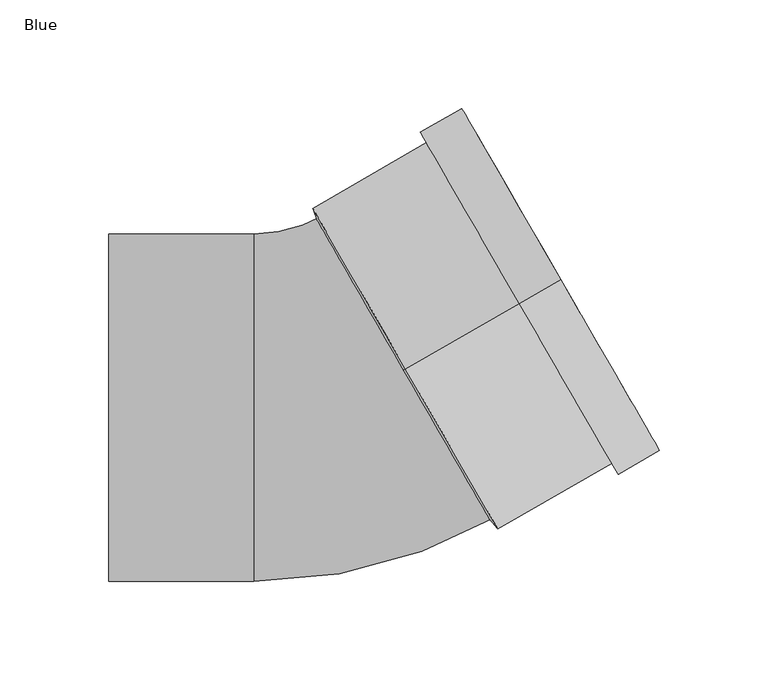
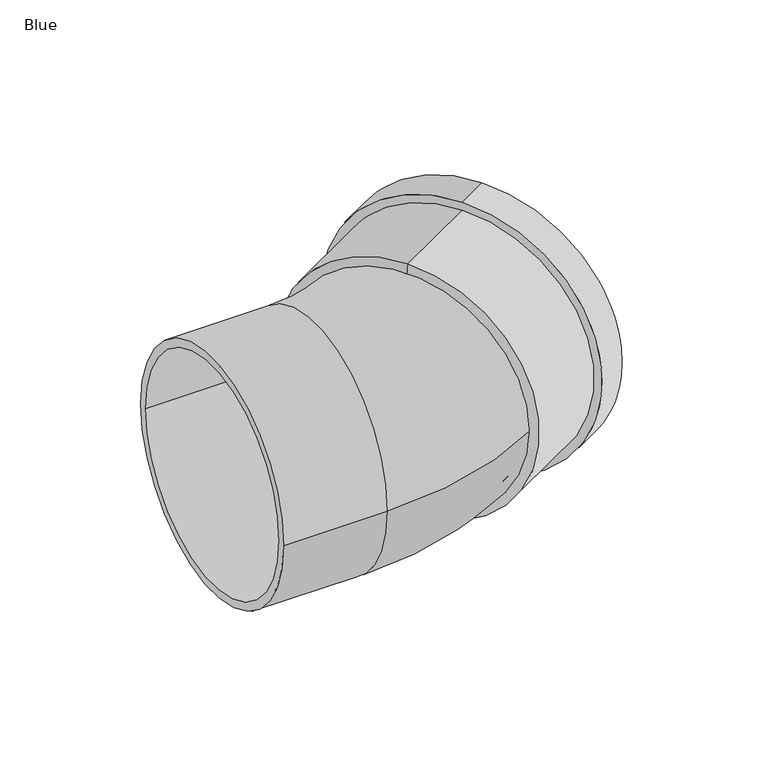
"""IFC4 building model written with IfcOpenShell, lengths in millimetres: pipe fitting geometry, AWADUKT PP SN10 Bend : Blue."""

from ifc_helpers import new_model, si_unit, point, frame, origin, place, context, project, spatial, polyline, circle_curve, ellipse_curve, trimmed, source, transform, mapped, element, save
from ifc_brep_helpers import plane_surface, cylinder_surface, revolved_surface, advanced_brep


def blue_66bd3a30(model_context):
    return source(origin(), model_context, "Body", "AdvancedBrep", [
        advanced_brep(
        [(83.1384388, 48.0, 85.5), (83.1384388, 48.0, -85.5), (30.7047146, 17.7273752, -85.5), (30.7047146, 17.7273752, 85.5), (102.1909976, 59.0, 91.0), (102.1909976, 59.0, -91.0), (83.1384388, 48.0, -91.0), (83.1384388, 48.0, 91.0), (97.4278579, 56.25, 80.0), (97.4278579, 56.25, -80.0), (102.1909976, 59.0, -80.0), (102.1909976, 59.0, 80.0), (87.9015785, 50.75, 85.5), (87.9015785, 50.75, -85.5), (97.4278579, 56.25, -85.5), (97.4278579, 56.25, 85.5), (34.7014633, 20.0348992, 80.0), (34.7014633, 20.0348992, -80.0), (87.9015785, 50.75, -80.0), (87.9015785, 50.75, 80.0), (33.8615933, 19.55, 74.5), (33.8615933, 19.55, -74.5), (29.0249745, 16.7575768, 74.5), (29.0249745, 16.7575768, -74.5)],
        [
            (0, 1, circle_curve(frame((83.1384388, 48.0, 0.0), z_axis=(-0.866025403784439, -0.49999999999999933, 0.0), x_axis=(0.0, 0.0, -1.0)), 85.5)),
            (1, 2),
            (2, 3, circle_curve(frame((30.7047146, 17.7273752, 0.0), z_axis=(0.866025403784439, 0.49999999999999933, 0.0), x_axis=(0.0, 0.0, -1.0)), 85.5)),
            (3, 0),
            (4, 5, circle_curve(frame((102.1909976, 59.0, 0.0), z_axis=(-0.866025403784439, -0.49999999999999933, 0.0), x_axis=(0.0, 0.0, -1.0)), 91.0)),
            (5, 6),
            (6, 7, circle_curve(frame((83.1384388, 48.0, 0.0), z_axis=(0.866025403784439, 0.49999999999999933, 0.0), x_axis=(0.0, 0.0, -1.0)), 91.0)),
            (7, 4),
            (8, 9, circle_curve(frame((97.4278579, 56.25, 0.0), z_axis=(-0.866025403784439, -0.49999999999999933, 0.0), x_axis=(0.0, 0.0, -1.0)), 80.0)),
            (9, 10),
            (10, 11, circle_curve(frame((102.1909976, 59.0, 0.0), z_axis=(0.866025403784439, 0.49999999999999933, 0.0), x_axis=(0.0, 0.0, -1.0)), 80.0)),
            (11, 8),
            (12, 13, circle_curve(frame((87.9015785, 50.75, 0.0), z_axis=(-0.866025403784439, -0.49999999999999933, 0.0), x_axis=(0.0, 0.0, -1.0)), 85.5)),
            (13, 14),
            (14, 15, circle_curve(frame((97.4278579, 56.25, 0.0), z_axis=(0.866025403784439, 0.49999999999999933, 0.0), x_axis=(0.0, 0.0, -1.0)), 85.5)),
            (15, 12),
            (16, 17, circle_curve(frame((34.7014633, 20.0348992, 0.0), z_axis=(-0.866025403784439, -0.49999999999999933, 0.0), x_axis=(0.0, 0.0, -1.0)), 80.0)),
            (17, 18),
            (18, 19, circle_curve(frame((87.9015785, 50.75, 0.0), z_axis=(0.866025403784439, 0.49999999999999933, 0.0), x_axis=(0.0, 0.0, -1.0)), 80.0)),
            (19, 16),
            (20, 21, circle_curve(frame((33.8615933, 19.55, 0.0), z_axis=(-0.866025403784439, -0.49999999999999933, 0.0), x_axis=(0.0, 0.0, -1.0)), 74.5)),
            (21, 17),
            (16, 20),
            (22, 23, circle_curve(frame((29.0249745, 16.7575768, 0.0), z_axis=(-0.866025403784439, -0.49999999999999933, 0.0), x_axis=(0.0, 0.0, -1.0)), 74.5)),
            (23, 21),
            (20, 22),
            (2, 23),
            (22, 3),
            (1, 0, circle_curve(frame((83.1384388, 48.0, 0.0), z_axis=(-0.866025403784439, -0.49999999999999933, 0.0), x_axis=(0.0, 0.0, 1.0)), 85.5)),
            (3, 2, circle_curve(frame((30.7047146, 17.7273752, 0.0), z_axis=(0.866025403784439, 0.49999999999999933, 0.0), x_axis=(0.0, 0.0, 1.0)), 85.5)),
            (6, 7, circle_curve(frame((83.1384388, 48.0, 0.0), z_axis=(-0.866025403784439, -0.49999999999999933, 0.0), x_axis=(0.0, 0.0, 1.0)), 91.0)),
            (5, 4, circle_curve(frame((102.1909976, 59.0, 0.0), z_axis=(-0.866025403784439, -0.49999999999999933, 0.0), x_axis=(0.0, 0.0, 1.0)), 91.0)),
            (10, 11, circle_curve(frame((102.1909976, 59.0, 0.0), z_axis=(-0.866025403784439, -0.49999999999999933, 0.0), x_axis=(0.0, 0.0, 1.0)), 80.0)),
            (9, 8, circle_curve(frame((97.4278579, 56.25, 0.0), z_axis=(-0.866025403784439, -0.49999999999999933, 0.0), x_axis=(0.0, 0.0, 1.0)), 80.0)),
            (14, 15, circle_curve(frame((97.4278579, 56.25, 0.0), z_axis=(-0.866025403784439, -0.49999999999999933, 0.0), x_axis=(0.0, 0.0, 1.0)), 85.5)),
            (13, 12, circle_curve(frame((87.9015785, 50.75, 0.0), z_axis=(-0.866025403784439, -0.49999999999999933, 0.0), x_axis=(0.0, 0.0, 1.0)), 85.5)),
            (18, 19, circle_curve(frame((87.9015785, 50.75, 0.0), z_axis=(-0.866025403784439, -0.49999999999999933, 0.0), x_axis=(0.0, 0.0, 1.0)), 80.0)),
            (17, 16, circle_curve(frame((34.7014633, 20.0348992, 0.0), z_axis=(-0.866025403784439, -0.49999999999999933, 0.0), x_axis=(0.0, 0.0, 1.0)), 80.0)),
            (21, 20, circle_curve(frame((33.8615933, 19.55, 0.0), z_axis=(-0.866025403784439, -0.49999999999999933, 0.0), x_axis=(0.0, 0.0, 1.0)), 74.5)),
            (23, 22, circle_curve(frame((29.0249745, 16.7575768, 0.0), z_axis=(-0.866025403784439, -0.49999999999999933, 0.0), x_axis=(0.0, 0.0, 1.0)), 74.5)),
        ],
        [
            cylinder_surface(frame((33.8615933, 19.55, 0.0), z_axis=(0.866025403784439, 0.49999999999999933, 0.0), x_axis=(0.0, 0.0, -1.0)), 85.5),
            cylinder_surface(frame((33.8615933, 19.55, 0.0), z_axis=(0.866025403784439, 0.49999999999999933, 0.0), x_axis=(0.0, 0.0, -1.0)), 91.0),
            revolved_surface(polyline([(102.1909976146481, 58.99999997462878, -80.0), (97.4278579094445, 56.249999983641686, -80.0)]), (33.8615933, 19.55, 0.0), (0.866025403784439, 0.49999999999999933, 0.0)),
            revolved_surface(polyline([(97.4278579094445, 56.249999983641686, -85.5), (87.90157849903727, 50.7500000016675, -85.5)]), (33.8615933, 19.55, 0.0), (0.866025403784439, 0.49999999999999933, 0.0)),
            revolved_surface(polyline([(87.90157849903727, 50.7500000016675, -80.0), (34.701463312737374, 20.034899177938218, -80.0)]), (33.8615933, 19.55, 0.0), (0.866025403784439, 0.49999999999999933, 0.0)),
            revolved_surface(polyline([(34.7014633, 20.0348992, -80.0), (33.8615933, 19.55, -74.5)]), (33.8615933, 19.55, 0.0), (0.866025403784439, 0.49999999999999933, 0.0)),
            revolved_surface(polyline([(33.8615933, 19.55, -74.5), (29.02497448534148, 16.7575768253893, -74.5)]), (33.8615933, 19.55, 0.0), (0.866025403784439, 0.49999999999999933, 0.0)),
            revolved_surface(polyline([(29.0249745, 16.7575768, -74.5), (30.7047146, 17.7273752, -85.5)]), (33.8615933, 19.55, 0.0), (0.866025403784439, 0.49999999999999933, 0.0)),
            cylinder_surface(frame((33.8615933, 19.55, 0.0), z_axis=(0.866025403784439, 0.49999999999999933, 0.0), x_axis=(0.0, 0.0, 1.0)), 85.5),
            plane_surface(frame((83.1384388, 48.0, 0.0), z_axis=(-0.866025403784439, -0.49999999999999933, 0.0), x_axis=(0.0, 0.0, 1.0))),
            cylinder_surface(frame((33.8615933, 19.55, 0.0), z_axis=(0.866025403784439, 0.49999999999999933, 0.0), x_axis=(0.0, 0.0, 1.0)), 91.0),
            plane_surface(frame((102.1909976, 59.0, 0.0), z_axis=(0.866025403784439, 0.49999999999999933, 0.0), x_axis=(0.0, 0.0, 1.0))),
            revolved_surface(polyline([(102.1909976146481, 58.99999997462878, 80.0), (97.4278579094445, 56.249999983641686, 80.0)]), (33.8615933, 19.55, 0.0), (0.866025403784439, 0.49999999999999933, 0.0)),
            plane_surface(frame((97.4278579, 56.25, 0.0), z_axis=(-0.866025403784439, -0.49999999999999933, 0.0), x_axis=(0.0, 0.0, 1.0))),
            revolved_surface(polyline([(97.4278579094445, 56.249999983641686, 85.5), (87.90157849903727, 50.7500000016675, 85.5)]), (33.8615933, 19.55, 0.0), (0.866025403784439, 0.49999999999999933, 0.0)),
            plane_surface(frame((87.9015785, 50.75, 0.0), z_axis=(0.866025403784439, 0.49999999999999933, 0.0), x_axis=(0.0, 0.0, 1.0))),
            revolved_surface(polyline([(87.90157849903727, 50.7500000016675, 80.0), (34.701463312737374, 20.034899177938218, 80.0)]), (33.8615933, 19.55, 0.0), (0.866025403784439, 0.49999999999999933, 0.0)),
            revolved_surface(polyline([(34.7014633, 20.0348992, 80.0), (33.8615933, 19.55, 74.5)]), (33.8615933, 19.55, 0.0), (0.866025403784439, 0.49999999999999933, 0.0)),
            revolved_surface(polyline([(33.8615933, 19.55, 74.5), (29.02497448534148, 16.7575768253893, 74.5)]), (33.8615933, 19.55, 0.0), (0.866025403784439, 0.49999999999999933, 0.0)),
            revolved_surface(polyline([(29.0249745, 16.7575768, 74.5), (30.7047146, 17.7273752, 85.5)]), (33.8615933, 19.55, 0.0), (0.866025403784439, 0.49999999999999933, 0.0)),
        ],
        [
            (0, [[1, 2, 3, 4]]),
            (1, [[5, 6, 7, 8]]),
            (2, [[9, 10, 11, 12]]),
            (3, [[13, 14, 15, 16]]),
            (4, [[17, 18, 19, 20]]),
            (5, [[21, 22, -17, 23]]),
            (6, [[24, 25, -21, 26]]),
            (7, [[-3, 27, -24, 28]]),
            (8, [[29, -4, 30, -2]]),
            (9, [[31, -7], [-29, -1]]),
            (10, [[32, -8, -31, -6]]),
            (11, [[-32, -5], [33, -11]]),
            (12, [[34, -12, -33, -10]]),
            (13, [[35, -15], [-34, -9]]),
            (14, [[36, -16, -35, -14]]),
            (15, [[-36, -13], [37, -19]]),
            (16, [[38, -20, -37, -18]]),
            (17, [[39, -23, -38, -22]]),
            (18, [[40, -26, -39, -25]]),
            (19, [[-30, -28, -40, -27]]),
        ],
    ),
        advanced_brep(
        [(-106.0, -80.0, 0.0), (-106.0, 80.0, 0.0), (-106.0, -74.5, 0.0), (-106.0, 74.5, 0.0), (73.8615933, -49.7320323, 0.0), (-6.1384067, 88.8320323, 0.0), (71.1115933, -44.9688926, 0.0), (-3.3884067, 84.0688926, 0.0), (-39.1, -74.5, 0.0), (-39.1, 74.5, 0.0), (-39.1, -80.0, 0.0), (-39.1, 80.0, 0.0)],
        [
            (0, 1, circle_curve(frame((-106.0, 0.0, 0.0), z_axis=(-1.0, 0.0, 0.0), x_axis=(0.0, 1.0, 0.0)), 80.0)),
            (1, 0, circle_curve(frame((-106.0, 0.0, 0.0), z_axis=(-1.0, 0.0, 0.0), x_axis=(0.0, 1.0, 0.0)), 80.0)),
            (2, 3, circle_curve(frame((-106.0, 0.0, 0.0), z_axis=(1.0, 0.0, 0.0), x_axis=(0.0, 1.0, 0.0)), 74.5)),
            (3, 2, circle_curve(frame((-106.0, 0.0, 0.0), z_axis=(1.0, 0.0, 0.0), x_axis=(0.0, 1.0, 0.0)), 74.5)),
            (4, 5, circle_curve(frame((33.8615933, 19.55, 0.0), z_axis=(0.8660254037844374, 0.5000000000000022, 0.0), x_axis=(-0.5000000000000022, 0.8660254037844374, 0.0)), 80.0)),
            (5, 4, circle_curve(frame((33.8615933, 19.55, 0.0), z_axis=(0.8660254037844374, 0.5000000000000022, 0.0), x_axis=(-0.5000000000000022, 0.8660254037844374, 0.0)), 80.0)),
            (6, 7, circle_curve(frame((33.8615933, 19.55, 0.0), z_axis=(-0.8660254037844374, -0.5000000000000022, 0.0), x_axis=(-0.5000000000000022, 0.8660254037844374, 0.0)), 74.5)),
            (7, 6, circle_curve(frame((33.8615933, 19.55, 0.0), z_axis=(-0.8660254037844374, -0.5000000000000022, 0.0), x_axis=(-0.5000000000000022, 0.8660254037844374, 0.0)), 74.5)),
            (2, 8),
            (8, 9, circle_curve(frame((-39.1, 0.0, 0.0), z_axis=(1.0, 0.0, 0.0), x_axis=(0.0, 1.0, 0.0)), 74.5)),
            (9, 3),
            (9, 8, circle_curve(frame((-39.1, 0.0, 0.0), z_axis=(1.0, 0.0, 0.0), x_axis=(0.0, 1.0, 0.0)), 74.5)),
            (0, 10),
            (10, 11, circle_curve(frame((-39.1, 0.0, 0.0), z_axis=(-1.0, 0.0, 0.0), x_axis=(0.0, 1.0, 0.0)), 80.0)),
            (11, 1),
            (11, 10, circle_curve(frame((-39.1, 0.0, 0.0), z_axis=(-1.0, 0.0, 0.0), x_axis=(0.0, 1.0, 0.0)), 80.0)),
            (7, 9, circle_curve(frame((-39.1, 145.9231866, 0.0), z_axis=(0.0, 0.0, -1.0), x_axis=(0.0, -1.0, 0.0)), 71.4231866)),
            (8, 6, circle_curve(frame((-39.1, 145.9231866, 0.0), z_axis=(0.0, 0.0, 1.0), x_axis=(0.0, -1.0, 0.0)), 220.4231866)),
            (5, 11, circle_curve(frame((-39.1, 145.9231866, 0.0), z_axis=(0.0, 0.0, -1.0), x_axis=(0.0, -1.0, 0.0)), 65.9231866)),
            (10, 4, circle_curve(frame((-39.1, 145.9231866, 0.0), z_axis=(0.0, 0.0, 1.0), x_axis=(0.0, -1.0, 0.0)), 225.9231866)),
        ],
        [
            plane_surface(frame((-106.0, 0.0, 0.0), z_axis=(-1.0, 0.0, 0.0), x_axis=(0.0, 0.0, 1.0))),
            plane_surface(frame((33.8615933, 19.55, 0.0), z_axis=(0.8660254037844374, 0.5000000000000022, 0.0), x_axis=(0.0, 0.0, 1.0))),
            revolved_surface(polyline([(-39.099999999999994, 74.5, 0.0), (-106.0, 74.5, 0.0)]), (-106.0, 0.0, 0.0), (1.0, 0.0, 0.0)),
            cylinder_surface(frame((-106.0, 0.0, 0.0), z_axis=(-1.0, 0.0, 0.0), x_axis=(0.0, 1.0, 0.0)), 80.0),
            revolved_surface(trimmed(ellipse_curve(frame((-39.1, 0.0, 0.0), z_axis=(1.0, 0.0, 0.0), x_axis=(0.0, 1.0, 0.0)), 74.5, 74.5), [point((-39.1, -74.5, 0.0))], [point((-39.1, 74.5, 0.0))], True, "CARTESIAN"), (-39.1, 145.9231866, 0.0), (0.0, 0.0, 1.0)),
            revolved_surface(trimmed(ellipse_curve(frame((-39.1, 0.0, 0.0), z_axis=(1.0, 0.0, 0.0), x_axis=(0.0, 1.0, 0.0)), 74.5, 74.5), [point((-39.1, 74.5, 0.0))], [point((-39.1, -74.5, 0.0))], True, "CARTESIAN"), (-39.1, 145.9231866, 0.0), (0.0, 0.0, 1.0)),
            revolved_surface(trimmed(ellipse_curve(frame((-39.1, 0.0, 0.0), z_axis=(-1.0, 0.0, 0.0), x_axis=(0.0, 1.0, 0.0)), 80.0, 80.0), [point((-39.1, -80.0, 0.0))], [point((-39.1, 80.0, 0.0))], True, "CARTESIAN"), (-39.1, 145.9231866, 0.0), (0.0, 0.0, 1.0)),
            revolved_surface(trimmed(ellipse_curve(frame((-39.1, 0.0, 0.0), z_axis=(-1.0, 0.0, 0.0), x_axis=(0.0, 1.0, 0.0)), 80.0, 80.0), [point((-39.1, 80.0, 0.0))], [point((-39.1, -80.0, 0.0))], True, "CARTESIAN"), (-39.1, 145.9231866, 0.0), (0.0, 0.0, 1.0)),
        ],
        [
            (0, [[1, 2], [3, 4]]),
            (1, [[5, 6], [7, 8]]),
            (2, [[-3, 9, 10, 11]]),
            (2, [[-4, -11, 12, -9]]),
            (3, [[-1, 13, 14, 15]]),
            (3, [[-2, -15, 16, -13]]),
            (4, [[17, -10, 18, -8]]),
            (5, [[-18, -12, -17, -7]]),
            (6, [[19, -14, 20, -6]]),
            (7, [[-20, -16, -19, -5]]),
        ],
    ),
    ])


if __name__ == "__main__":
    model = new_model("IFC4")
    model_context = context("Model", 3, world=origin())
    ifc_project = project(units=[si_unit("LENGTHUNIT", "METRE", prefix="MILLI")], contexts=[model_context])
    site = spatial("IfcSite", under=ifc_project)
    building = spatial("IfcBuilding", under=site)
    placement = place(None, origin())
    blue_shape = blue_66bd3a30(model_context)
    element("IfcPipeFitting", 1, ObjectType="AWADUKT PP SN10 Bend : Blue", at=placement, inside=building, context=model_context, shape_type="MappedRepresentation", body=[
        mapped(blue_shape, transform((0.0, 0.0, 0.0), x_axis=(1.0, 0.0, 0.0), y_axis=(0.0, 1.0, 0.0), z_axis=(0.0, 0.0, 1.0))),
    ])
    save(model, "model.ifc")
